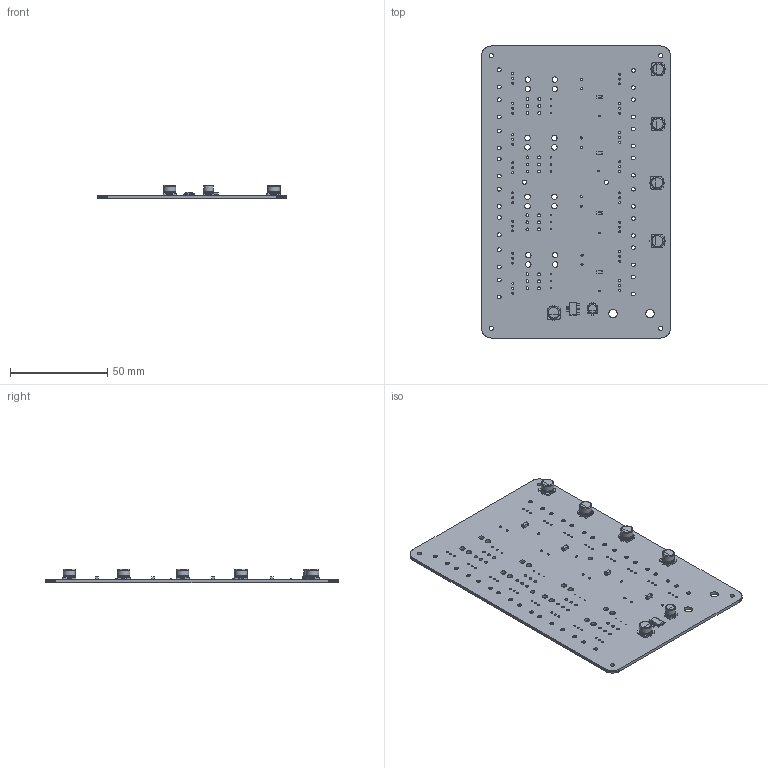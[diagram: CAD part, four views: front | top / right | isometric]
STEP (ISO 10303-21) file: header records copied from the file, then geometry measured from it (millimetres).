
FILE_DESCRIPTION(('KiCad electronic assembly'),'2;1');
FILE_NAME('ReferenceVoltage Module.step','2023-12-18T16:32:58',('Pcbnew' ),('Kicad'),'Open CASCADE STEP processor 7.6', 'KiCad to STEP converter','Unknown');
FILE_SCHEMA(('AUTOMOTIVE_DESIGN { 1 0 10303 214 1 1 1 1 }'));
Length unit declared in the file: millimetre
Products named in the file (12): ReferenceVoltage Module 1; C_0402_1005Metric; SOLID; C_1206_3216Metric; CP_Elec_6.3x5.4; SOT-223; CP_Elec_5x5.4; ReferenceVoltage Module PCB
Assembly tree (21 placements, depth 3):
  ReferenceVoltage Module 1
    C_0402_1005Metric  x4
      SOLID
    C_1206_3216Metric  x4
      SOLID
    CP_Elec_6.3x5.4  x5
      SOLID
    SOT-223
      SOLID
    CP_Elec_5x5.4
      SOLID
    ReferenceVoltage Module PCB
Bounding box: 97 x 150 x 7 mm (x, y, z)
Volume: 23013.2 mm3; surface area: 31725.9 mm2
Topology: 16 solids, 16 shells, 1766 faces, 5042 edges, 3330 vertices
Faces by surface type: plane 1420, cylinder 288, bspline 28, torus 24, revolution 6
Full cylindrical faces by diameter (mm): 0.6 x12, 1 x48, 1.1 x8, 1.5 x24, 2.2 x6, 2.8 x16, 4.3 x2, 5 x2, 6.3 x10
Entity records: 105395 total; most frequent: CARTESIAN_POINT 19510, DIRECTION 15466, LINE 11792, VECTOR 11792, ORIENTED_EDGE 8396, PCURVE 8396, DEFINITIONAL_REPRESENTATION 8396, EDGE_CURVE 4198
